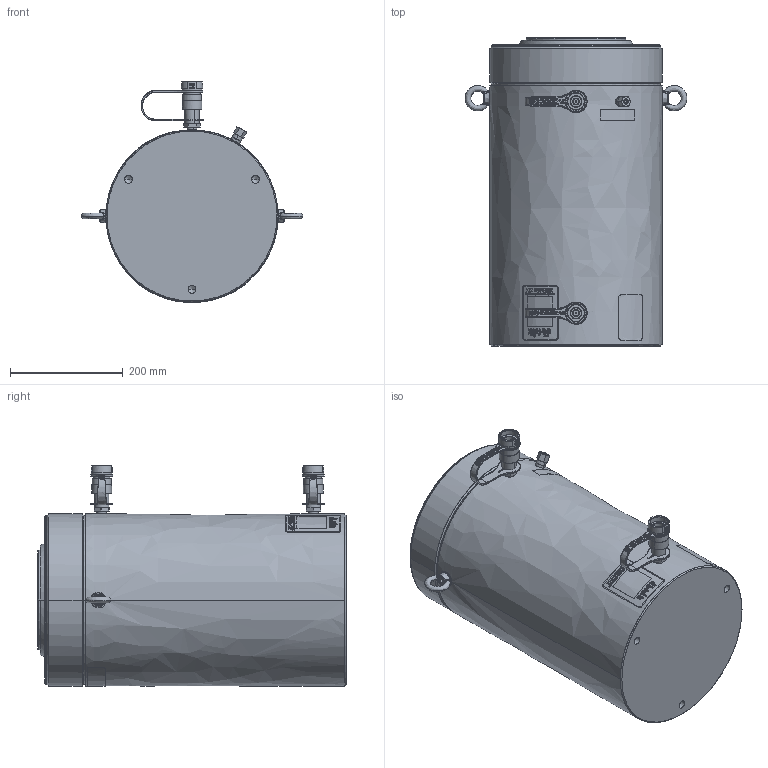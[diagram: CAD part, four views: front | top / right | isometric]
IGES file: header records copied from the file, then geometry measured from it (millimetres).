
Start section:  PTC IGES file: hcr30012.igs
Global section: file name: hcr30012.igs; native system: Creo Parametric by PTC Inc.; preprocessor: 2015290; author: Akhilesh.Subrahmanya; organization: Unknown; date: 20170622.124803; units: millimetre
Bounding box: 393 x 546 x 391.69 mm (x, y, z)
Surface area: 1009094.5 mm2 (no closed solid volume)
Topology: 0 solids, 0 shells, 744 faces, 6842 edges, 6830 vertices
Faces by surface type: revolution 462, bspline 276, extrusion 6
